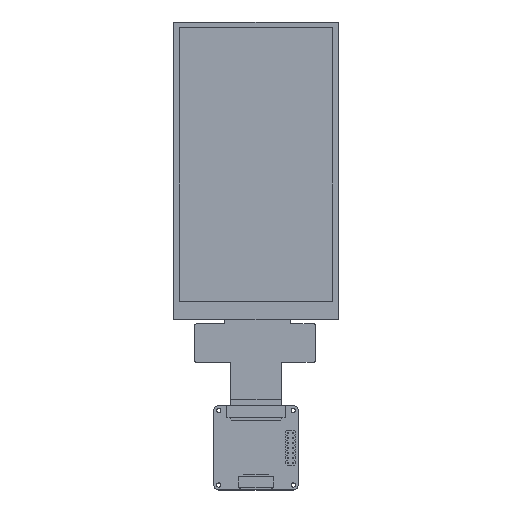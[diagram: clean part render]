
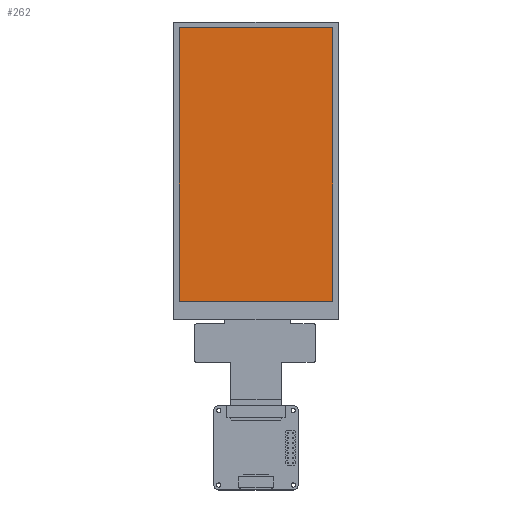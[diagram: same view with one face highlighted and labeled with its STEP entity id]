
A CAD part, top view. The second image highlights one B-rep face of the part: STEP entity #262.
In plain terms, the highlighted planar face has unit normal (0, 0, 1).
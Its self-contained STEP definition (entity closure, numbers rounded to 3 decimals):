
#110=DIRECTION('',(1.,0.,0.));
#111=VECTOR('',#110,62.06);
#112=CARTESIAN_POINT('',(-31.03,57.835,2.22));
#113=LINE('',#112,#111);
#114=DIRECTION('',(0.,1.,0.));
#115=VECTOR('',#114,110.42);
#116=CARTESIAN_POINT('',(-31.03,-52.585,2.22));
#117=LINE('',#116,#115);
#118=DIRECTION('',(-1.,0.,0.));
#119=VECTOR('',#118,62.06);
#120=CARTESIAN_POINT('',(31.03,-52.585,2.22));
#121=LINE('',#120,#119);
#122=DIRECTION('',(0.,-1.,0.));
#123=VECTOR('',#122,110.42);
#124=CARTESIAN_POINT('',(31.03,57.835,2.22));
#125=LINE('',#124,#123);
#142=CARTESIAN_POINT('',(-31.03,57.835,2.22));
#143=CARTESIAN_POINT('',(31.03,57.835,2.22));
#144=VERTEX_POINT('',#142);
#145=VERTEX_POINT('',#143);
#146=CARTESIAN_POINT('',(31.03,-52.585,2.22));
#147=VERTEX_POINT('',#146);
#148=CARTESIAN_POINT('',(-31.03,-52.585,2.22));
#149=VERTEX_POINT('',#148);
#251=CARTESIAN_POINT('',(0.,0.,2.22));
#252=DIRECTION('',(0.,0.,1.));
#253=DIRECTION('',(1.,0.,0.));
#254=AXIS2_PLACEMENT_3D('',#251,#252,#253);
#255=PLANE('',#254);
#256=ORIENTED_EDGE('',*,*,#233,.T.);
#257=ORIENTED_EDGE('',*,*,#239,.T.);
#258=ORIENTED_EDGE('',*,*,#237,.T.);
#259=ORIENTED_EDGE('',*,*,#235,.T.);
#260=EDGE_LOOP('',(#256,#257,#258,#259));
#261=FACE_OUTER_BOUND('',#260,.F.);
#233=EDGE_CURVE('',#144,#145,#113,.T.);
#235=EDGE_CURVE('',#149,#144,#117,.T.);
#237=EDGE_CURVE('',#147,#149,#121,.T.);
#239=EDGE_CURVE('',#145,#147,#125,.T.);
#262=ADVANCED_FACE('',(#261),#255,.T.);
